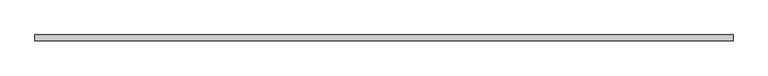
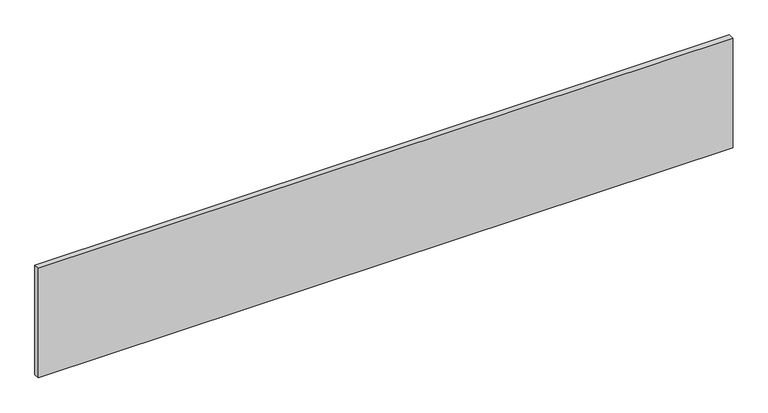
"""IFC4 building model written with IfcOpenShell, lengths in millimetres: plate geometry, 系统嵌板 : 玻璃."""

from ifc_helpers import new_model, si_unit, origin, origin_with_axes, place, context, project, spatial, polyline, outline, extrude, source, transform, mapped, element, save


def plate_ce02e459(model_context):
    return source(origin(), model_context, "Body", "SweptSolid", [
        extrude(outline(polyline([(1500.0, -12.5), (-1500.0, -12.5), (-1500.0, 12.5), (1500.0, 12.5), (1500.0, -12.5)])), origin_with_axes(), (0.0, 0.0, 1.0), 500.0),
    ])


if __name__ == "__main__":
    model = new_model("IFC4")
    model_context = context("Model", 3, world=origin())
    ifc_project = project(units=[si_unit("LENGTHUNIT", "METRE", prefix="MILLI")], contexts=[model_context])
    site = spatial("IfcSite", under=ifc_project)
    building = spatial("IfcBuilding", under=site)
    placement = place(None, origin())
    plate_shape = plate_ce02e459(model_context)
    element("IfcPlate", 1, ObjectType="系统嵌板 : 玻璃", at=placement, inside=building, context=model_context, shape_type="MappedRepresentation", body=[
        mapped(plate_shape, transform((0.0, 0.0, 0.0), x_axis=(1.0, 0.0, 0.0), y_axis=(0.0, 1.0, 0.0), z_axis=(0.0, 0.0, 1.0))),
    ])
    save(model, "model.ifc")
